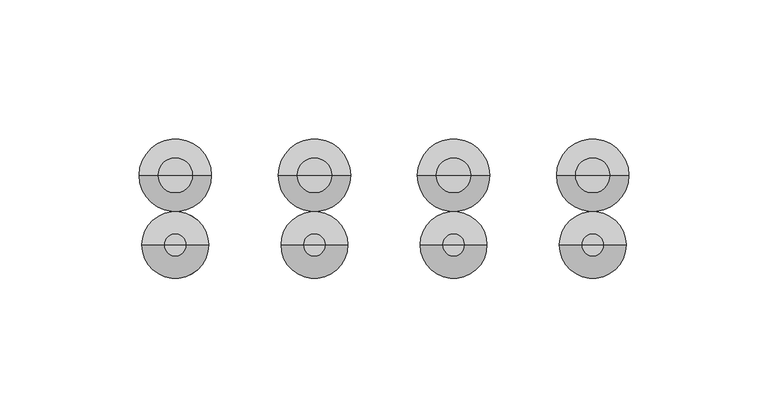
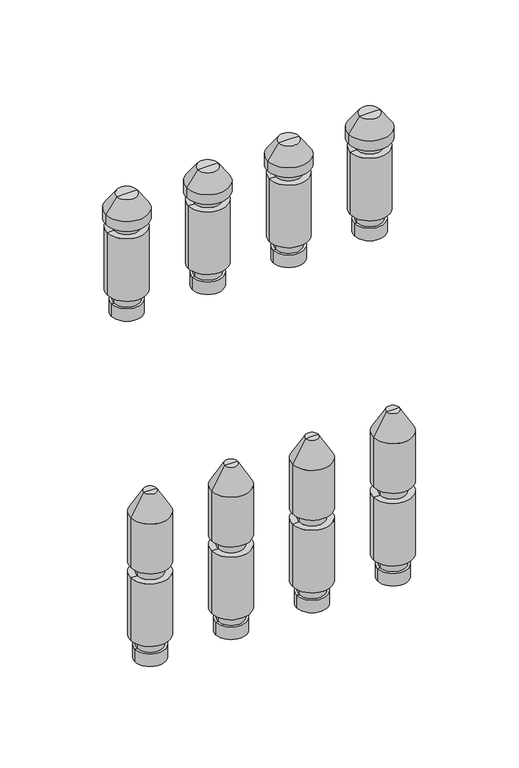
"""IFC4 building model written with IfcOpenShell, lengths in millimetres: valve geometry, PL CZ_Manifold_FT-VA : 11 circuits."""

from ifc_helpers import new_model, si_unit, frame, origin, place, context, project, spatial, polyline, circle_curve, source, transform, mapped, element, save
from ifc_brep_helpers import plane_surface, cylinder_surface, revolved_surface, advanced_brep


def valve_b9d05faa(model_context):
    return source(origin(), model_context, "Body", "AdvancedBrep", [
        advanced_brep(
        [(478.5, 0.0, -35.11267), (497.5, 0.0, -35.11267), (488.0, 0.0, -35.11267), (478.5, 0.0, -27.0369646), (497.5, 0.0, -27.0369646), (480.0, 0.0, -27.0369646), (496.0, 0.0, -27.0369646), (480.0, 0.0, -20.330253), (496.0, 0.0, -20.330253), (476.0, 0.0, -20.330253), (500.0, 0.0, -20.330253), (476.0, 0.0, 20.330253), (500.0, 0.0, 20.330253), (480.0, 0.0, 20.330253), (496.0, 0.0, 20.330253), (480.0, 0.0, 27.0474786), (496.0, 0.0, 27.0474786), (476.0, 0.0, 27.0474786), (500.0, 0.0, 27.0474786), (476.0, 0.0, 59.4084325), (500.0, 0.0, 59.4084325), (484.0, 0.0, 73.264839), (492.0, 0.0, 73.264839), (488.0, 0.0, 73.264839)],
        [
            (0, 1, circle_curve(frame((488.0, 0.0, -35.11267), z_axis=(0.0, 0.0, -1.0), x_axis=(1.0, 0.0, 0.0)), 9.5)),
            (1, 2),
            (2, 0),
            (1, 0, circle_curve(frame((488.0, 0.0, -35.11267), z_axis=(0.0, 0.0, -1.0), x_axis=(1.0, 0.0, 0.0)), 9.5)),
            (3, 4, circle_curve(frame((488.0, 0.0, -27.0369646), z_axis=(0.0, 0.0, -1.0), x_axis=(1.0, 0.0, 0.0)), 9.5)),
            (4, 1),
            (0, 3),
            (4, 3, circle_curve(frame((488.0, 0.0, -27.0369646), z_axis=(0.0, 0.0, -1.0), x_axis=(1.0, 0.0, 0.0)), 9.5)),
            (5, 6, circle_curve(frame((488.0, 0.0, -27.0369646), z_axis=(0.0, 0.0, -1.0), x_axis=(1.0, 0.0, 0.0)), 8.0)),
            (6, 4),
            (3, 5),
            (6, 5, circle_curve(frame((488.0, 0.0, -27.0369646), z_axis=(0.0, 0.0, -1.0), x_axis=(1.0, 0.0, 0.0)), 8.0)),
            (7, 8, circle_curve(frame((488.0, 0.0, -20.330253), z_axis=(0.0, 0.0, -1.0), x_axis=(1.0, 0.0, 0.0)), 8.0)),
            (8, 6),
            (5, 7),
            (8, 7, circle_curve(frame((488.0, 0.0, -20.330253), z_axis=(0.0, 0.0, -1.0), x_axis=(1.0, 0.0, 0.0)), 8.0)),
            (9, 10, circle_curve(frame((488.0, 0.0, -20.330253), z_axis=(0.0, 0.0, -1.0), x_axis=(1.0, 0.0, 0.0)), 12.0)),
            (10, 8),
            (7, 9),
            (10, 9, circle_curve(frame((488.0, 0.0, -20.330253), z_axis=(0.0, 0.0, -1.0), x_axis=(1.0, 0.0, 0.0)), 12.0)),
            (11, 12, circle_curve(frame((488.0, 0.0, 20.330253), z_axis=(0.0, 0.0, -1.0), x_axis=(1.0, 0.0, 0.0)), 12.0)),
            (12, 10),
            (9, 11),
            (12, 11, circle_curve(frame((488.0, 0.0, 20.330253), z_axis=(0.0, 0.0, -1.0), x_axis=(1.0, 0.0, 0.0)), 12.0)),
            (13, 14, circle_curve(frame((488.0, 0.0, 20.330253), z_axis=(0.0, 0.0, -1.0), x_axis=(1.0, 0.0, 0.0)), 8.0)),
            (14, 12),
            (11, 13),
            (14, 13, circle_curve(frame((488.0, 0.0, 20.330253), z_axis=(0.0, 0.0, -1.0), x_axis=(1.0, 0.0, 0.0)), 8.0)),
            (15, 16, circle_curve(frame((488.0, 0.0, 27.0474786), z_axis=(0.0, 0.0, -1.0), x_axis=(1.0, 0.0, 0.0)), 8.0)),
            (16, 14),
            (13, 15),
            (16, 15, circle_curve(frame((488.0, 0.0, 27.0474786), z_axis=(0.0, 0.0, -1.0), x_axis=(1.0, 0.0, 0.0)), 8.0)),
            (17, 18, circle_curve(frame((488.0, 0.0, 27.0474786), z_axis=(0.0, 0.0, -1.0), x_axis=(1.0, 0.0, 0.0)), 12.0)),
            (18, 16),
            (15, 17),
            (18, 17, circle_curve(frame((488.0, 0.0, 27.0474786), z_axis=(0.0, 0.0, -1.0), x_axis=(1.0, 0.0, 0.0)), 12.0)),
            (19, 20, circle_curve(frame((488.0, 0.0, 59.4084325), z_axis=(0.0, 0.0, -1.0), x_axis=(1.0, 0.0, 0.0)), 12.0)),
            (20, 18),
            (17, 19),
            (20, 19, circle_curve(frame((488.0, 0.0, 59.4084325), z_axis=(0.0, 0.0, -1.0), x_axis=(1.0, 0.0, 0.0)), 12.0)),
            (21, 22, circle_curve(frame((488.0, 0.0, 73.264839), z_axis=(0.0, 0.0, -1.0), x_axis=(1.0, 0.0, 0.0)), 4.0)),
            (22, 20),
            (19, 21),
            (22, 21, circle_curve(frame((488.0, 0.0, 73.264839), z_axis=(0.0, 0.0, -1.0), x_axis=(1.0, 0.0, 0.0)), 4.0)),
            (23, 22),
            (21, 23),
        ],
        [
            plane_surface(frame((488.0, 0.0, -35.11267), z_axis=(0.0, 0.0, -1.0), x_axis=(1.0, 0.0, 0.0))),
            cylinder_surface(frame((488.0, 0.0, 58.264839), z_axis=(0.0, 0.0, 1.0), x_axis=(1.0, 0.0, 0.0)), 9.5),
            plane_surface(frame((488.0, 0.0, -27.0369646), z_axis=(0.0, 0.0, 1.0), x_axis=(1.0, 0.0, 0.0))),
            cylinder_surface(frame((488.0, 0.0, 58.264839), z_axis=(0.0, 0.0, 1.0), x_axis=(1.0, 0.0, 0.0)), 8.0),
            plane_surface(frame((488.0, 0.0, -20.330253), z_axis=(0.0, 0.0, -1.0), x_axis=(1.0, 0.0, 0.0))),
            cylinder_surface(frame((488.0, 0.0, 58.264839), z_axis=(0.0, 0.0, 1.0), x_axis=(1.0, 0.0, 0.0)), 12.0),
            plane_surface(frame((488.0, 0.0, 20.330253), z_axis=(0.0, 0.0, 1.0), x_axis=(1.0, 0.0, 0.0))),
            plane_surface(frame((488.0, 0.0, 27.0474786), z_axis=(0.0, 0.0, -1.0), x_axis=(1.0, 0.0, 0.0))),
            revolved_surface(polyline([(500.0, 0.0, 59.4084325), (492.0, 0.0, 73.264839)]), (488.0, 0.0, 58.264839), (0.0, 0.0, 1.0)),
            plane_surface(frame((488.0, 0.0, 73.264839), z_axis=(0.0, 0.0, 1.0), x_axis=(1.0, 0.0, 0.0))),
        ],
        [
            (0, [[1, 2, 3]]),
            (0, [[4, -3, -2]]),
            (1, [[5, 6, -1, 7]]),
            (1, [[8, -7, -4, -6]]),
            (2, [[9, 10, -5, 11]]),
            (2, [[12, -11, -8, -10]]),
            (3, [[13, 14, -9, 15]]),
            (3, [[16, -15, -12, -14]]),
            (4, [[17, 18, -13, 19]]),
            (4, [[20, -19, -16, -18]]),
            (5, [[21, 22, -17, 23]]),
            (5, [[24, -23, -20, -22]]),
            (6, [[25, 26, -21, 27]]),
            (6, [[28, -27, -24, -26]]),
            (3, [[29, 30, -25, 31]]),
            (3, [[32, -31, -28, -30]]),
            (7, [[33, 34, -29, 35]]),
            (7, [[36, -35, -32, -34]]),
            (5, [[37, 38, -33, 39]]),
            (5, [[40, -39, -36, -38]]),
            (8, [[41, 42, -37, 43]]),
            (8, [[44, -43, -40, -42]]),
            (9, [[45, -41, 46]]),
            (9, [[-46, -44, -45]]),
        ],
    ),
        advanced_brep(
        [(478.5, 25.0, 174.88733), (497.5, 25.0, 174.88733), (488.0, 25.0, 174.88733), (478.5, 25.0, 182.9630354), (497.5, 25.0, 182.9630354), (480.0, 25.0, 182.9630354), (496.0, 25.0, 182.9630354), (480.0, 25.0, 189.669747), (496.0, 25.0, 189.669747), (476.0, 25.0, 189.669747), (500.0, 25.0, 189.669747), (476.0, 25.0, 230.330253), (500.0, 25.0, 230.330253), (480.0, 25.0, 230.330253), (496.0, 25.0, 230.330253), (480.0, 25.0, 236.0474786), (496.0, 25.0, 236.0474786), (475.0, 25.0, 236.0474786), (501.0, 25.0, 236.0474786), (475.0, 25.0, 242.337955), (501.0, 25.0, 242.337955), (481.6551779, 25.0, 251.842534), (494.3448221, 25.0, 251.842534), (488.0, 25.0, 251.842534)],
        [
            (0, 1, circle_curve(frame((488.0, 25.0, 174.88733), z_axis=(0.0, 0.0, -1.0), x_axis=(1.0, 0.0, 0.0)), 9.5)),
            (1, 2),
            (2, 0),
            (1, 0, circle_curve(frame((488.0, 25.0, 174.88733), z_axis=(0.0, 0.0, -1.0), x_axis=(1.0, 0.0, 0.0)), 9.5)),
            (3, 4, circle_curve(frame((488.0, 25.0, 182.9630354), z_axis=(0.0, 0.0, -1.0), x_axis=(1.0, 0.0, 0.0)), 9.5)),
            (4, 1),
            (0, 3),
            (4, 3, circle_curve(frame((488.0, 25.0, 182.9630354), z_axis=(0.0, 0.0, -1.0), x_axis=(1.0, 0.0, 0.0)), 9.5)),
            (5, 6, circle_curve(frame((488.0, 25.0, 182.9630354), z_axis=(0.0, 0.0, -1.0), x_axis=(1.0, 0.0, 0.0)), 8.0)),
            (6, 4),
            (3, 5),
            (6, 5, circle_curve(frame((488.0, 25.0, 182.9630354), z_axis=(0.0, 0.0, -1.0), x_axis=(1.0, 0.0, 0.0)), 8.0)),
            (7, 8, circle_curve(frame((488.0, 25.0, 189.669747), z_axis=(0.0, 0.0, -1.0), x_axis=(1.0, 0.0, 0.0)), 8.0)),
            (8, 6),
            (5, 7),
            (8, 7, circle_curve(frame((488.0, 25.0, 189.669747), z_axis=(0.0, 0.0, -1.0), x_axis=(1.0, 0.0, 0.0)), 8.0)),
            (9, 10, circle_curve(frame((488.0, 25.0, 189.669747), z_axis=(0.0, 0.0, -1.0), x_axis=(1.0, 0.0, 0.0)), 12.0)),
            (10, 8),
            (7, 9),
            (10, 9, circle_curve(frame((488.0, 25.0, 189.669747), z_axis=(0.0, 0.0, -1.0), x_axis=(1.0, 0.0, 0.0)), 12.0)),
            (11, 12, circle_curve(frame((488.0, 25.0, 230.330253), z_axis=(0.0, 0.0, -1.0), x_axis=(1.0, 0.0, 0.0)), 12.0)),
            (12, 10),
            (9, 11),
            (12, 11, circle_curve(frame((488.0, 25.0, 230.330253), z_axis=(0.0, 0.0, -1.0), x_axis=(1.0, 0.0, 0.0)), 12.0)),
            (13, 14, circle_curve(frame((488.0, 25.0, 230.330253), z_axis=(0.0, 0.0, -1.0), x_axis=(1.0, 0.0, 0.0)), 8.0)),
            (14, 12),
            (11, 13),
            (14, 13, circle_curve(frame((488.0, 25.0, 230.330253), z_axis=(0.0, 0.0, -1.0), x_axis=(1.0, 0.0, 0.0)), 8.0)),
            (15, 16, circle_curve(frame((488.0, 25.0, 236.0474786), z_axis=(0.0, 0.0, -1.0), x_axis=(1.0, 0.0, 0.0)), 8.0)),
            (16, 14),
            (13, 15),
            (16, 15, circle_curve(frame((488.0, 25.0, 236.0474786), z_axis=(0.0, 0.0, -1.0), x_axis=(1.0, 0.0, 0.0)), 8.0)),
            (17, 18, circle_curve(frame((488.0, 25.0, 236.0474786), z_axis=(0.0, 0.0, -1.0), x_axis=(1.0, 0.0, 0.0)), 13.0)),
            (18, 16),
            (15, 17),
            (18, 17, circle_curve(frame((488.0, 25.0, 236.0474786), z_axis=(0.0, 0.0, -1.0), x_axis=(1.0, 0.0, 0.0)), 13.0)),
            (19, 20, circle_curve(frame((488.0, 25.0, 242.337955), z_axis=(0.0, 0.0, -1.0), x_axis=(1.0, 0.0, 0.0)), 13.0)),
            (20, 18),
            (17, 19),
            (20, 19, circle_curve(frame((488.0, 25.0, 242.337955), z_axis=(0.0, 0.0, -1.0), x_axis=(1.0, 0.0, 0.0)), 13.0)),
            (21, 22, circle_curve(frame((488.0, 25.0, 251.842534), z_axis=(0.0, 0.0, -1.0), x_axis=(1.0, 0.0, 0.0)), 6.3448221)),
            (22, 20),
            (19, 21),
            (22, 21, circle_curve(frame((488.0, 25.0, 251.842534), z_axis=(0.0, 0.0, -1.0), x_axis=(1.0, 0.0, 0.0)), 6.3448221)),
            (23, 22),
            (21, 23),
        ],
        [
            plane_surface(frame((488.0, 25.0, 174.88733), z_axis=(0.0, 0.0, -1.0), x_axis=(1.0, 0.0, 0.0))),
            cylinder_surface(frame((488.0, 25.0, 247.7026565), z_axis=(0.0, 0.0, 1.0), x_axis=(1.0, 0.0, 0.0)), 9.5),
            plane_surface(frame((488.0, 25.0, 182.9630354), z_axis=(0.0, 0.0, 1.0), x_axis=(1.0, 0.0, 0.0))),
            cylinder_surface(frame((488.0, 25.0, 247.7026565), z_axis=(0.0, 0.0, 1.0), x_axis=(1.0, 0.0, 0.0)), 8.0),
            plane_surface(frame((488.0, 25.0, 189.669747), z_axis=(0.0, 0.0, -1.0), x_axis=(1.0, 0.0, 0.0))),
            cylinder_surface(frame((488.0, 25.0, 247.7026565), z_axis=(0.0, 0.0, 1.0), x_axis=(1.0, 0.0, 0.0)), 12.0),
            plane_surface(frame((488.0, 25.0, 230.330253), z_axis=(0.0, 0.0, 1.0), x_axis=(1.0, 0.0, 0.0))),
            plane_surface(frame((488.0, 25.0, 236.0474786), z_axis=(0.0, 0.0, -1.0), x_axis=(1.0, 0.0, 0.0))),
            cylinder_surface(frame((488.0, 25.0, 247.7026565), z_axis=(0.0, 0.0, 1.0), x_axis=(1.0, 0.0, 0.0)), 13.0),
            revolved_surface(polyline([(501.0, 25.0, 242.337955), (494.3448221, 25.0, 251.842534)]), (488.0, 25.0, 247.7026565), (0.0, 0.0, 1.0)),
            plane_surface(frame((488.0, 25.0, 251.842534), z_axis=(0.0, 0.0, 1.0), x_axis=(1.0, 0.0, 0.0))),
        ],
        [
            (0, [[1, 2, 3]]),
            (0, [[4, -3, -2]]),
            (1, [[5, 6, -1, 7]]),
            (1, [[8, -7, -4, -6]]),
            (2, [[9, 10, -5, 11]]),
            (2, [[12, -11, -8, -10]]),
            (3, [[13, 14, -9, 15]]),
            (3, [[16, -15, -12, -14]]),
            (4, [[17, 18, -13, 19]]),
            (4, [[20, -19, -16, -18]]),
            (5, [[21, 22, -17, 23]]),
            (5, [[24, -23, -20, -22]]),
            (6, [[25, 26, -21, 27]]),
            (6, [[28, -27, -24, -26]]),
            (3, [[29, 30, -25, 31]]),
            (3, [[32, -31, -28, -30]]),
            (7, [[33, 34, -29, 35]]),
            (7, [[36, -35, -32, -34]]),
            (8, [[37, 38, -33, 39]]),
            (8, [[40, -39, -36, -38]]),
            (9, [[41, 42, -37, 43]]),
            (9, [[44, -43, -40, -42]]),
            (10, [[45, -41, 46]]),
            (10, [[-46, -44, -45]]),
        ],
    ),
        advanced_brep(
        [(428.5, 0.0, -35.11267), (447.5, 0.0, -35.11267), (438.0, 0.0, -35.11267), (428.5, 0.0, -27.0369646), (447.5, 0.0, -27.0369646), (430.0, 0.0, -27.0369646), (446.0, 0.0, -27.0369646), (430.0, 0.0, -20.330253), (446.0, 0.0, -20.330253), (426.0, 0.0, -20.330253), (450.0, 0.0, -20.330253), (426.0, 0.0, 20.330253), (450.0, 0.0, 20.330253), (430.0, 0.0, 20.330253), (446.0, 0.0, 20.330253), (430.0, 0.0, 27.0474786), (446.0, 0.0, 27.0474786), (426.0, 0.0, 27.0474786), (450.0, 0.0, 27.0474786), (426.0, 0.0, 59.4084325), (450.0, 0.0, 59.4084325), (434.0, 0.0, 73.264839), (442.0, 0.0, 73.264839), (438.0, 0.0, 73.264839)],
        [
            (0, 1, circle_curve(frame((438.0, 0.0, -35.11267), z_axis=(0.0, 0.0, -1.0), x_axis=(1.0, 0.0, 0.0)), 9.5)),
            (1, 2),
            (2, 0),
            (1, 0, circle_curve(frame((438.0, 0.0, -35.11267), z_axis=(0.0, 0.0, -1.0), x_axis=(1.0, 0.0, 0.0)), 9.5)),
            (3, 4, circle_curve(frame((438.0, 0.0, -27.0369646), z_axis=(0.0, 0.0, -1.0), x_axis=(1.0, 0.0, 0.0)), 9.5)),
            (4, 1),
            (0, 3),
            (4, 3, circle_curve(frame((438.0, 0.0, -27.0369646), z_axis=(0.0, 0.0, -1.0), x_axis=(1.0, 0.0, 0.0)), 9.5)),
            (5, 6, circle_curve(frame((438.0, 0.0, -27.0369646), z_axis=(0.0, 0.0, -1.0), x_axis=(1.0, 0.0, 0.0)), 8.0)),
            (6, 4),
            (3, 5),
            (6, 5, circle_curve(frame((438.0, 0.0, -27.0369646), z_axis=(0.0, 0.0, -1.0), x_axis=(1.0, 0.0, 0.0)), 8.0)),
            (7, 8, circle_curve(frame((438.0, 0.0, -20.330253), z_axis=(0.0, 0.0, -1.0), x_axis=(1.0, 0.0, 0.0)), 8.0)),
            (8, 6),
            (5, 7),
            (8, 7, circle_curve(frame((438.0, 0.0, -20.330253), z_axis=(0.0, 0.0, -1.0), x_axis=(1.0, 0.0, 0.0)), 8.0)),
            (9, 10, circle_curve(frame((438.0, 0.0, -20.330253), z_axis=(0.0, 0.0, -1.0), x_axis=(1.0, 0.0, 0.0)), 12.0)),
            (10, 8),
            (7, 9),
            (10, 9, circle_curve(frame((438.0, 0.0, -20.330253), z_axis=(0.0, 0.0, -1.0), x_axis=(1.0, 0.0, 0.0)), 12.0)),
            (11, 12, circle_curve(frame((438.0, 0.0, 20.330253), z_axis=(0.0, 0.0, -1.0), x_axis=(1.0, 0.0, 0.0)), 12.0)),
            (12, 10),
            (9, 11),
            (12, 11, circle_curve(frame((438.0, 0.0, 20.330253), z_axis=(0.0, 0.0, -1.0), x_axis=(1.0, 0.0, 0.0)), 12.0)),
            (13, 14, circle_curve(frame((438.0, 0.0, 20.330253), z_axis=(0.0, 0.0, -1.0), x_axis=(1.0, 0.0, 0.0)), 8.0)),
            (14, 12),
            (11, 13),
            (14, 13, circle_curve(frame((438.0, 0.0, 20.330253), z_axis=(0.0, 0.0, -1.0), x_axis=(1.0, 0.0, 0.0)), 8.0)),
            (15, 16, circle_curve(frame((438.0, 0.0, 27.0474786), z_axis=(0.0, 0.0, -1.0), x_axis=(1.0, 0.0, 0.0)), 8.0)),
            (16, 14),
            (13, 15),
            (16, 15, circle_curve(frame((438.0, 0.0, 27.0474786), z_axis=(0.0, 0.0, -1.0), x_axis=(1.0, 0.0, 0.0)), 8.0)),
            (17, 18, circle_curve(frame((438.0, 0.0, 27.0474786), z_axis=(0.0, 0.0, -1.0), x_axis=(1.0, 0.0, 0.0)), 12.0)),
            (18, 16),
            (15, 17),
            (18, 17, circle_curve(frame((438.0, 0.0, 27.0474786), z_axis=(0.0, 0.0, -1.0), x_axis=(1.0, 0.0, 0.0)), 12.0)),
            (19, 20, circle_curve(frame((438.0, 0.0, 59.4084325), z_axis=(0.0, 0.0, -1.0), x_axis=(1.0, 0.0, 0.0)), 12.0)),
            (20, 18),
            (17, 19),
            (20, 19, circle_curve(frame((438.0, 0.0, 59.4084325), z_axis=(0.0, 0.0, -1.0), x_axis=(1.0, 0.0, 0.0)), 12.0)),
            (21, 22, circle_curve(frame((438.0, 0.0, 73.264839), z_axis=(0.0, 0.0, -1.0), x_axis=(1.0, 0.0, 0.0)), 4.0)),
            (22, 20),
            (19, 21),
            (22, 21, circle_curve(frame((438.0, 0.0, 73.264839), z_axis=(0.0, 0.0, -1.0), x_axis=(1.0, 0.0, 0.0)), 4.0)),
            (23, 22),
            (21, 23),
        ],
        [
            plane_surface(frame((438.0, 0.0, -35.11267), z_axis=(0.0, 0.0, -1.0), x_axis=(1.0, 0.0, 0.0))),
            cylinder_surface(frame((438.0, 0.0, 58.264839), z_axis=(0.0, 0.0, 1.0), x_axis=(1.0, 0.0, 0.0)), 9.5),
            plane_surface(frame((438.0, 0.0, -27.0369646), z_axis=(0.0, 0.0, 1.0), x_axis=(1.0, 0.0, 0.0))),
            cylinder_surface(frame((438.0, 0.0, 58.264839), z_axis=(0.0, 0.0, 1.0), x_axis=(1.0, 0.0, 0.0)), 8.0),
            plane_surface(frame((438.0, 0.0, -20.330253), z_axis=(0.0, 0.0, -1.0), x_axis=(1.0, 0.0, 0.0))),
            cylinder_surface(frame((438.0, 0.0, 58.264839), z_axis=(0.0, 0.0, 1.0), x_axis=(1.0, 0.0, 0.0)), 12.0),
            plane_surface(frame((438.0, 0.0, 20.330253), z_axis=(0.0, 0.0, 1.0), x_axis=(1.0, 0.0, 0.0))),
            plane_surface(frame((438.0, 0.0, 27.0474786), z_axis=(0.0, 0.0, -1.0), x_axis=(1.0, 0.0, 0.0))),
            revolved_surface(polyline([(450.0, 0.0, 59.4084325), (442.0, 0.0, 73.264839)]), (438.0, 0.0, 58.264839), (0.0, 0.0, 1.0)),
            plane_surface(frame((438.0, 0.0, 73.264839), z_axis=(0.0, 0.0, 1.0), x_axis=(1.0, 0.0, 0.0))),
        ],
        [
            (0, [[1, 2, 3]]),
            (0, [[4, -3, -2]]),
            (1, [[5, 6, -1, 7]]),
            (1, [[8, -7, -4, -6]]),
            (2, [[9, 10, -5, 11]]),
            (2, [[12, -11, -8, -10]]),
            (3, [[13, 14, -9, 15]]),
            (3, [[16, -15, -12, -14]]),
            (4, [[17, 18, -13, 19]]),
            (4, [[20, -19, -16, -18]]),
            (5, [[21, 22, -17, 23]]),
            (5, [[24, -23, -20, -22]]),
            (6, [[25, 26, -21, 27]]),
            (6, [[28, -27, -24, -26]]),
            (3, [[29, 30, -25, 31]]),
            (3, [[32, -31, -28, -30]]),
            (7, [[33, 34, -29, 35]]),
            (7, [[36, -35, -32, -34]]),
            (5, [[37, 38, -33, 39]]),
            (5, [[40, -39, -36, -38]]),
            (8, [[41, 42, -37, 43]]),
            (8, [[44, -43, -40, -42]]),
            (9, [[45, -41, 46]]),
            (9, [[-46, -44, -45]]),
        ],
    ),
        advanced_brep(
        [(378.5, 0.0, -35.11267), (397.5, 0.0, -35.11267), (388.0, 0.0, -35.11267), (378.5, 0.0, -27.0369646), (397.5, 0.0, -27.0369646), (380.0, 0.0, -27.0369646), (396.0, 0.0, -27.0369646), (380.0, 0.0, -20.330253), (396.0, 0.0, -20.330253), (376.0, 0.0, -20.330253), (400.0, 0.0, -20.330253), (376.0, 0.0, 20.330253), (400.0, 0.0, 20.330253), (380.0, 0.0, 20.330253), (396.0, 0.0, 20.330253), (380.0, 0.0, 27.0474786), (396.0, 0.0, 27.0474786), (376.0, 0.0, 27.0474786), (400.0, 0.0, 27.0474786), (376.0, 0.0, 59.4084325), (400.0, 0.0, 59.4084325), (384.0, 0.0, 73.264839), (392.0, 0.0, 73.264839), (388.0, 0.0, 73.264839)],
        [
            (0, 1, circle_curve(frame((388.0, 0.0, -35.11267), z_axis=(0.0, 0.0, -1.0), x_axis=(1.0, 0.0, 0.0)), 9.5)),
            (1, 2),
            (2, 0),
            (1, 0, circle_curve(frame((388.0, 0.0, -35.11267), z_axis=(0.0, 0.0, -1.0), x_axis=(1.0, 0.0, 0.0)), 9.5)),
            (3, 4, circle_curve(frame((388.0, 0.0, -27.0369646), z_axis=(0.0, 0.0, -1.0), x_axis=(1.0, 0.0, 0.0)), 9.5)),
            (4, 1),
            (0, 3),
            (4, 3, circle_curve(frame((388.0, 0.0, -27.0369646), z_axis=(0.0, 0.0, -1.0), x_axis=(1.0, 0.0, 0.0)), 9.5)),
            (5, 6, circle_curve(frame((388.0, 0.0, -27.0369646), z_axis=(0.0, 0.0, -1.0), x_axis=(1.0, 0.0, 0.0)), 8.0)),
            (6, 4),
            (3, 5),
            (6, 5, circle_curve(frame((388.0, 0.0, -27.0369646), z_axis=(0.0, 0.0, -1.0), x_axis=(1.0, 0.0, 0.0)), 8.0)),
            (7, 8, circle_curve(frame((388.0, 0.0, -20.330253), z_axis=(0.0, 0.0, -1.0), x_axis=(1.0, 0.0, 0.0)), 8.0)),
            (8, 6),
            (5, 7),
            (8, 7, circle_curve(frame((388.0, 0.0, -20.330253), z_axis=(0.0, 0.0, -1.0), x_axis=(1.0, 0.0, 0.0)), 8.0)),
            (9, 10, circle_curve(frame((388.0, 0.0, -20.330253), z_axis=(0.0, 0.0, -1.0), x_axis=(1.0, 0.0, 0.0)), 12.0)),
            (10, 8),
            (7, 9),
            (10, 9, circle_curve(frame((388.0, 0.0, -20.330253), z_axis=(0.0, 0.0, -1.0), x_axis=(1.0, 0.0, 0.0)), 12.0)),
            (11, 12, circle_curve(frame((388.0, 0.0, 20.330253), z_axis=(0.0, 0.0, -1.0), x_axis=(1.0, 0.0, 0.0)), 12.0)),
            (12, 10),
            (9, 11),
            (12, 11, circle_curve(frame((388.0, 0.0, 20.330253), z_axis=(0.0, 0.0, -1.0), x_axis=(1.0, 0.0, 0.0)), 12.0)),
            (13, 14, circle_curve(frame((388.0, 0.0, 20.330253), z_axis=(0.0, 0.0, -1.0), x_axis=(1.0, 0.0, 0.0)), 8.0)),
            (14, 12),
            (11, 13),
            (14, 13, circle_curve(frame((388.0, 0.0, 20.330253), z_axis=(0.0, 0.0, -1.0), x_axis=(1.0, 0.0, 0.0)), 8.0)),
            (15, 16, circle_curve(frame((388.0, 0.0, 27.0474786), z_axis=(0.0, 0.0, -1.0), x_axis=(1.0, 0.0, 0.0)), 8.0)),
            (16, 14),
            (13, 15),
            (16, 15, circle_curve(frame((388.0, 0.0, 27.0474786), z_axis=(0.0, 0.0, -1.0), x_axis=(1.0, 0.0, 0.0)), 8.0)),
            (17, 18, circle_curve(frame((388.0, 0.0, 27.0474786), z_axis=(0.0, 0.0, -1.0), x_axis=(1.0, 0.0, 0.0)), 12.0)),
            (18, 16),
            (15, 17),
            (18, 17, circle_curve(frame((388.0, 0.0, 27.0474786), z_axis=(0.0, 0.0, -1.0), x_axis=(1.0, 0.0, 0.0)), 12.0)),
            (19, 20, circle_curve(frame((388.0, 0.0, 59.4084325), z_axis=(0.0, 0.0, -1.0), x_axis=(1.0, 0.0, 0.0)), 12.0)),
            (20, 18),
            (17, 19),
            (20, 19, circle_curve(frame((388.0, 0.0, 59.4084325), z_axis=(0.0, 0.0, -1.0), x_axis=(1.0, 0.0, 0.0)), 12.0)),
            (21, 22, circle_curve(frame((388.0, 0.0, 73.264839), z_axis=(0.0, 0.0, -1.0), x_axis=(1.0, 0.0, 0.0)), 4.0)),
            (22, 20),
            (19, 21),
            (22, 21, circle_curve(frame((388.0, 0.0, 73.264839), z_axis=(0.0, 0.0, -1.0), x_axis=(1.0, 0.0, 0.0)), 4.0)),
            (23, 22),
            (21, 23),
        ],
        [
            plane_surface(frame((388.0, 0.0, -35.11267), z_axis=(0.0, 0.0, -1.0), x_axis=(1.0, 0.0, 0.0))),
            cylinder_surface(frame((388.0, 0.0, 58.264839), z_axis=(0.0, 0.0, 1.0), x_axis=(1.0, 0.0, 0.0)), 9.5),
            plane_surface(frame((388.0, 0.0, -27.0369646), z_axis=(0.0, 0.0, 1.0), x_axis=(1.0, 0.0, 0.0))),
            cylinder_surface(frame((388.0, 0.0, 58.264839), z_axis=(0.0, 0.0, 1.0), x_axis=(1.0, 0.0, 0.0)), 8.0),
            plane_surface(frame((388.0, 0.0, -20.330253), z_axis=(0.0, 0.0, -1.0), x_axis=(1.0, 0.0, 0.0))),
            cylinder_surface(frame((388.0, 0.0, 58.264839), z_axis=(0.0, 0.0, 1.0), x_axis=(1.0, 0.0, 0.0)), 12.0),
            plane_surface(frame((388.0, 0.0, 20.330253), z_axis=(0.0, 0.0, 1.0), x_axis=(1.0, 0.0, 0.0))),
            plane_surface(frame((388.0, 0.0, 27.0474786), z_axis=(0.0, 0.0, -1.0), x_axis=(1.0, 0.0, 0.0))),
            revolved_surface(polyline([(400.0, 0.0, 59.4084325), (392.0, 0.0, 73.264839)]), (388.0, 0.0, 58.264839), (0.0, 0.0, 1.0)),
            plane_surface(frame((388.0, 0.0, 73.264839), z_axis=(0.0, 0.0, 1.0), x_axis=(1.0, 0.0, 0.0))),
        ],
        [
            (0, [[1, 2, 3]]),
            (0, [[4, -3, -2]]),
            (1, [[5, 6, -1, 7]]),
            (1, [[8, -7, -4, -6]]),
            (2, [[9, 10, -5, 11]]),
            (2, [[12, -11, -8, -10]]),
            (3, [[13, 14, -9, 15]]),
            (3, [[16, -15, -12, -14]]),
            (4, [[17, 18, -13, 19]]),
            (4, [[20, -19, -16, -18]]),
            (5, [[21, 22, -17, 23]]),
            (5, [[24, -23, -20, -22]]),
            (6, [[25, 26, -21, 27]]),
            (6, [[28, -27, -24, -26]]),
            (3, [[29, 30, -25, 31]]),
            (3, [[32, -31, -28, -30]]),
            (7, [[33, 34, -29, 35]]),
            (7, [[36, -35, -32, -34]]),
            (5, [[37, 38, -33, 39]]),
            (5, [[40, -39, -36, -38]]),
            (8, [[41, 42, -37, 43]]),
            (8, [[44, -43, -40, -42]]),
            (9, [[45, -41, 46]]),
            (9, [[-46, -44, -45]]),
        ],
    ),
        advanced_brep(
        [(428.5, 25.0, 174.88733), (447.5, 25.0, 174.88733), (438.0, 25.0, 174.88733), (428.5, 25.0, 182.9630354), (447.5, 25.0, 182.9630354), (430.0, 25.0, 182.9630354), (446.0, 25.0, 182.9630354), (430.0, 25.0, 189.669747), (446.0, 25.0, 189.669747), (426.0, 25.0, 189.669747), (450.0, 25.0, 189.669747), (426.0, 25.0, 230.330253), (450.0, 25.0, 230.330253), (430.0, 25.0, 230.330253), (446.0, 25.0, 230.330253), (430.0, 25.0, 236.0474786), (446.0, 25.0, 236.0474786), (425.0, 25.0, 236.0474786), (451.0, 25.0, 236.0474786), (425.0, 25.0, 242.337955), (451.0, 25.0, 242.337955), (431.6551779, 25.0, 251.842534), (444.3448221, 25.0, 251.842534), (438.0, 25.0, 251.842534)],
        [
            (0, 1, circle_curve(frame((438.0, 25.0, 174.88733), z_axis=(0.0, 0.0, -1.0), x_axis=(1.0, 0.0, 0.0)), 9.5)),
            (1, 2),
            (2, 0),
            (1, 0, circle_curve(frame((438.0, 25.0, 174.88733), z_axis=(0.0, 0.0, -1.0), x_axis=(1.0, 0.0, 0.0)), 9.5)),
            (3, 4, circle_curve(frame((438.0, 25.0, 182.9630354), z_axis=(0.0, 0.0, -1.0), x_axis=(1.0, 0.0, 0.0)), 9.5)),
            (4, 1),
            (0, 3),
            (4, 3, circle_curve(frame((438.0, 25.0, 182.9630354), z_axis=(0.0, 0.0, -1.0), x_axis=(1.0, 0.0, 0.0)), 9.5)),
            (5, 6, circle_curve(frame((438.0, 25.0, 182.9630354), z_axis=(0.0, 0.0, -1.0), x_axis=(1.0, 0.0, 0.0)), 8.0)),
            (6, 4),
            (3, 5),
            (6, 5, circle_curve(frame((438.0, 25.0, 182.9630354), z_axis=(0.0, 0.0, -1.0), x_axis=(1.0, 0.0, 0.0)), 8.0)),
            (7, 8, circle_curve(frame((438.0, 25.0, 189.669747), z_axis=(0.0, 0.0, -1.0), x_axis=(1.0, 0.0, 0.0)), 8.0)),
            (8, 6),
            (5, 7),
            (8, 7, circle_curve(frame((438.0, 25.0, 189.669747), z_axis=(0.0, 0.0, -1.0), x_axis=(1.0, 0.0, 0.0)), 8.0)),
            (9, 10, circle_curve(frame((438.0, 25.0, 189.669747), z_axis=(0.0, 0.0, -1.0), x_axis=(1.0, 0.0, 0.0)), 12.0)),
            (10, 8),
            (7, 9),
            (10, 9, circle_curve(frame((438.0, 25.0, 189.669747), z_axis=(0.0, 0.0, -1.0), x_axis=(1.0, 0.0, 0.0)), 12.0)),
            (11, 12, circle_curve(frame((438.0, 25.0, 230.330253), z_axis=(0.0, 0.0, -1.0), x_axis=(1.0, 0.0, 0.0)), 12.0)),
            (12, 10),
            (9, 11),
            (12, 11, circle_curve(frame((438.0, 25.0, 230.330253), z_axis=(0.0, 0.0, -1.0), x_axis=(1.0, 0.0, 0.0)), 12.0)),
            (13, 14, circle_curve(frame((438.0, 25.0, 230.330253), z_axis=(0.0, 0.0, -1.0), x_axis=(1.0, 0.0, 0.0)), 8.0)),
            (14, 12),
            (11, 13),
            (14, 13, circle_curve(frame((438.0, 25.0, 230.330253), z_axis=(0.0, 0.0, -1.0), x_axis=(1.0, 0.0, 0.0)), 8.0)),
            (15, 16, circle_curve(frame((438.0, 25.0, 236.0474786), z_axis=(0.0, 0.0, -1.0), x_axis=(1.0, 0.0, 0.0)), 8.0)),
            (16, 14),
            (13, 15),
            (16, 15, circle_curve(frame((438.0, 25.0, 236.0474786), z_axis=(0.0, 0.0, -1.0), x_axis=(1.0, 0.0, 0.0)), 8.0)),
            (17, 18, circle_curve(frame((438.0, 25.0, 236.0474786), z_axis=(0.0, 0.0, -1.0), x_axis=(1.0, 0.0, 0.0)), 13.0)),
            (18, 16),
            (15, 17),
            (18, 17, circle_curve(frame((438.0, 25.0, 236.0474786), z_axis=(0.0, 0.0, -1.0), x_axis=(1.0, 0.0, 0.0)), 13.0)),
            (19, 20, circle_curve(frame((438.0, 25.0, 242.337955), z_axis=(0.0, 0.0, -1.0), x_axis=(1.0, 0.0, 0.0)), 13.0)),
            (20, 18),
            (17, 19),
            (20, 19, circle_curve(frame((438.0, 25.0, 242.337955), z_axis=(0.0, 0.0, -1.0), x_axis=(1.0, 0.0, 0.0)), 13.0)),
            (21, 22, circle_curve(frame((438.0, 25.0, 251.842534), z_axis=(0.0, 0.0, -1.0), x_axis=(1.0, 0.0, 0.0)), 6.3448221)),
            (22, 20),
            (19, 21),
            (22, 21, circle_curve(frame((438.0, 25.0, 251.842534), z_axis=(0.0, 0.0, -1.0), x_axis=(1.0, 0.0, 0.0)), 6.3448221)),
            (23, 22),
            (21, 23),
        ],
        [
            plane_surface(frame((438.0, 25.0, 174.88733), z_axis=(0.0, 0.0, -1.0), x_axis=(1.0, 0.0, 0.0))),
            cylinder_surface(frame((438.0, 25.0, 247.7026565), z_axis=(0.0, 0.0, 1.0), x_axis=(1.0, 0.0, 0.0)), 9.5),
            plane_surface(frame((438.0, 25.0, 182.9630354), z_axis=(0.0, 0.0, 1.0), x_axis=(1.0, 0.0, 0.0))),
            cylinder_surface(frame((438.0, 25.0, 247.7026565), z_axis=(0.0, 0.0, 1.0), x_axis=(1.0, 0.0, 0.0)), 8.0),
            plane_surface(frame((438.0, 25.0, 189.669747), z_axis=(0.0, 0.0, -1.0), x_axis=(1.0, 0.0, 0.0))),
            cylinder_surface(frame((438.0, 25.0, 247.7026565), z_axis=(0.0, 0.0, 1.0), x_axis=(1.0, 0.0, 0.0)), 12.0),
            plane_surface(frame((438.0, 25.0, 230.330253), z_axis=(0.0, 0.0, 1.0), x_axis=(1.0, 0.0, 0.0))),
            plane_surface(frame((438.0, 25.0, 236.0474786), z_axis=(0.0, 0.0, -1.0), x_axis=(1.0, 0.0, 0.0))),
            cylinder_surface(frame((438.0, 25.0, 247.7026565), z_axis=(0.0, 0.0, 1.0), x_axis=(1.0, 0.0, 0.0)), 13.0),
            revolved_surface(polyline([(451.0, 25.0, 242.337955), (444.3448221, 25.0, 251.842534)]), (438.0, 25.0, 247.7026565), (0.0, 0.0, 1.0)),
            plane_surface(frame((438.0, 25.0, 251.842534), z_axis=(0.0, 0.0, 1.0), x_axis=(1.0, 0.0, 0.0))),
        ],
        [
            (0, [[1, 2, 3]]),
            (0, [[4, -3, -2]]),
            (1, [[5, 6, -1, 7]]),
            (1, [[8, -7, -4, -6]]),
            (2, [[9, 10, -5, 11]]),
            (2, [[12, -11, -8, -10]]),
            (3, [[13, 14, -9, 15]]),
            (3, [[16, -15, -12, -14]]),
            (4, [[17, 18, -13, 19]]),
            (4, [[20, -19, -16, -18]]),
            (5, [[21, 22, -17, 23]]),
            (5, [[24, -23, -20, -22]]),
            (6, [[25, 26, -21, 27]]),
            (6, [[28, -27, -24, -26]]),
            (3, [[29, 30, -25, 31]]),
            (3, [[32, -31, -28, -30]]),
            (7, [[33, 34, -29, 35]]),
            (7, [[36, -35, -32, -34]]),
            (8, [[37, 38, -33, 39]]),
            (8, [[40, -39, -36, -38]]),
            (9, [[41, 42, -37, 43]]),
            (9, [[44, -43, -40, -42]]),
            (10, [[45, -41, 46]]),
            (10, [[-46, -44, -45]]),
        ],
    ),
        advanced_brep(
        [(378.5, 25.0, 174.88733), (397.5, 25.0, 174.88733), (388.0, 25.0, 174.88733), (378.5, 25.0, 182.9630354), (397.5, 25.0, 182.9630354), (380.0, 25.0, 182.9630354), (396.0, 25.0, 182.9630354), (380.0, 25.0, 189.669747), (396.0, 25.0, 189.669747), (376.0, 25.0, 189.669747), (400.0, 25.0, 189.669747), (376.0, 25.0, 230.330253), (400.0, 25.0, 230.330253), (380.0, 25.0, 230.330253), (396.0, 25.0, 230.330253), (380.0, 25.0, 236.0474786), (396.0, 25.0, 236.0474786), (375.0, 25.0, 236.0474786), (401.0, 25.0, 236.0474786), (375.0, 25.0, 242.337955), (401.0, 25.0, 242.337955), (381.6551779, 25.0, 251.842534), (394.3448221, 25.0, 251.842534), (388.0, 25.0, 251.842534)],
        [
            (0, 1, circle_curve(frame((388.0, 25.0, 174.88733), z_axis=(0.0, 0.0, -1.0), x_axis=(1.0, 0.0, 0.0)), 9.5)),
            (1, 2),
            (2, 0),
            (1, 0, circle_curve(frame((388.0, 25.0, 174.88733), z_axis=(0.0, 0.0, -1.0), x_axis=(1.0, 0.0, 0.0)), 9.5)),
            (3, 4, circle_curve(frame((388.0, 25.0, 182.9630354), z_axis=(0.0, 0.0, -1.0), x_axis=(1.0, 0.0, 0.0)), 9.5)),
            (4, 1),
            (0, 3),
            (4, 3, circle_curve(frame((388.0, 25.0, 182.9630354), z_axis=(0.0, 0.0, -1.0), x_axis=(1.0, 0.0, 0.0)), 9.5)),
            (5, 6, circle_curve(frame((388.0, 25.0, 182.9630354), z_axis=(0.0, 0.0, -1.0), x_axis=(1.0, 0.0, 0.0)), 8.0)),
            (6, 4),
            (3, 5),
            (6, 5, circle_curve(frame((388.0, 25.0, 182.9630354), z_axis=(0.0, 0.0, -1.0), x_axis=(1.0, 0.0, 0.0)), 8.0)),
            (7, 8, circle_curve(frame((388.0, 25.0, 189.669747), z_axis=(0.0, 0.0, -1.0), x_axis=(1.0, 0.0, 0.0)), 8.0)),
            (8, 6),
            (5, 7),
            (8, 7, circle_curve(frame((388.0, 25.0, 189.669747), z_axis=(0.0, 0.0, -1.0), x_axis=(1.0, 0.0, 0.0)), 8.0)),
            (9, 10, circle_curve(frame((388.0, 25.0, 189.669747), z_axis=(0.0, 0.0, -1.0), x_axis=(1.0, 0.0, 0.0)), 12.0)),
            (10, 8),
            (7, 9),
            (10, 9, circle_curve(frame((388.0, 25.0, 189.669747), z_axis=(0.0, 0.0, -1.0), x_axis=(1.0, 0.0, 0.0)), 12.0)),
            (11, 12, circle_curve(frame((388.0, 25.0, 230.330253), z_axis=(0.0, 0.0, -1.0), x_axis=(1.0, 0.0, 0.0)), 12.0)),
            (12, 10),
            (9, 11),
            (12, 11, circle_curve(frame((388.0, 25.0, 230.330253), z_axis=(0.0, 0.0, -1.0), x_axis=(1.0, 0.0, 0.0)), 12.0)),
            (13, 14, circle_curve(frame((388.0, 25.0, 230.330253), z_axis=(0.0, 0.0, -1.0), x_axis=(1.0, 0.0, 0.0)), 8.0)),
            (14, 12),
            (11, 13),
            (14, 13, circle_curve(frame((388.0, 25.0, 230.330253), z_axis=(0.0, 0.0, -1.0), x_axis=(1.0, 0.0, 0.0)), 8.0)),
            (15, 16, circle_curve(frame((388.0, 25.0, 236.0474786), z_axis=(0.0, 0.0, -1.0), x_axis=(1.0, 0.0, 0.0)), 8.0)),
            (16, 14),
            (13, 15),
            (16, 15, circle_curve(frame((388.0, 25.0, 236.0474786), z_axis=(0.0, 0.0, -1.0), x_axis=(1.0, 0.0, 0.0)), 8.0)),
            (17, 18, circle_curve(frame((388.0, 25.0, 236.0474786), z_axis=(0.0, 0.0, -1.0), x_axis=(1.0, 0.0, 0.0)), 13.0)),
            (18, 16),
            (15, 17),
            (18, 17, circle_curve(frame((388.0, 25.0, 236.0474786), z_axis=(0.0, 0.0, -1.0), x_axis=(1.0, 0.0, 0.0)), 13.0)),
            (19, 20, circle_curve(frame((388.0, 25.0, 242.337955), z_axis=(0.0, 0.0, -1.0), x_axis=(1.0, 0.0, 0.0)), 13.0)),
            (20, 18),
            (17, 19),
            (20, 19, circle_curve(frame((388.0, 25.0, 242.337955), z_axis=(0.0, 0.0, -1.0), x_axis=(1.0, 0.0, 0.0)), 13.0)),
            (21, 22, circle_curve(frame((388.0, 25.0, 251.842534), z_axis=(0.0, 0.0, -1.0), x_axis=(1.0, 0.0, 0.0)), 6.3448221)),
            (22, 20),
            (19, 21),
            (22, 21, circle_curve(frame((388.0, 25.0, 251.842534), z_axis=(0.0, 0.0, -1.0), x_axis=(1.0, 0.0, 0.0)), 6.3448221)),
            (23, 22),
            (21, 23),
        ],
        [
            plane_surface(frame((388.0, 25.0, 174.88733), z_axis=(0.0, 0.0, -1.0), x_axis=(1.0, 0.0, 0.0))),
            cylinder_surface(frame((388.0, 25.0, 247.7026565), z_axis=(0.0, 0.0, 1.0), x_axis=(1.0, 0.0, 0.0)), 9.5),
            plane_surface(frame((388.0, 25.0, 182.9630354), z_axis=(0.0, 0.0, 1.0), x_axis=(1.0, 0.0, 0.0))),
            cylinder_surface(frame((388.0, 25.0, 247.7026565), z_axis=(0.0, 0.0, 1.0), x_axis=(1.0, 0.0, 0.0)), 8.0),
            plane_surface(frame((388.0, 25.0, 189.669747), z_axis=(0.0, 0.0, -1.0), x_axis=(1.0, 0.0, 0.0))),
            cylinder_surface(frame((388.0, 25.0, 247.7026565), z_axis=(0.0, 0.0, 1.0), x_axis=(1.0, 0.0, 0.0)), 12.0),
            plane_surface(frame((388.0, 25.0, 230.330253), z_axis=(0.0, 0.0, 1.0), x_axis=(1.0, 0.0, 0.0))),
            plane_surface(frame((388.0, 25.0, 236.0474786), z_axis=(0.0, 0.0, -1.0), x_axis=(1.0, 0.0, 0.0))),
            cylinder_surface(frame((388.0, 25.0, 247.7026565), z_axis=(0.0, 0.0, 1.0), x_axis=(1.0, 0.0, 0.0)), 13.0),
            revolved_surface(polyline([(401.0, 25.0, 242.337955), (394.3448221, 25.0, 251.842534)]), (388.0, 25.0, 247.7026565), (0.0, 0.0, 1.0)),
            plane_surface(frame((388.0, 25.0, 251.842534), z_axis=(0.0, 0.0, 1.0), x_axis=(1.0, 0.0, 0.0))),
        ],
        [
            (0, [[1, 2, 3]]),
            (0, [[4, -3, -2]]),
            (1, [[5, 6, -1, 7]]),
            (1, [[8, -7, -4, -6]]),
            (2, [[9, 10, -5, 11]]),
            (2, [[12, -11, -8, -10]]),
            (3, [[13, 14, -9, 15]]),
            (3, [[16, -15, -12, -14]]),
            (4, [[17, 18, -13, 19]]),
            (4, [[20, -19, -16, -18]]),
            (5, [[21, 22, -17, 23]]),
            (5, [[24, -23, -20, -22]]),
            (6, [[25, 26, -21, 27]]),
            (6, [[28, -27, -24, -26]]),
            (3, [[29, 30, -25, 31]]),
            (3, [[32, -31, -28, -30]]),
            (7, [[33, 34, -29, 35]]),
            (7, [[36, -35, -32, -34]]),
            (8, [[37, 38, -33, 39]]),
            (8, [[40, -39, -36, -38]]),
            (9, [[41, 42, -37, 43]]),
            (9, [[44, -43, -40, -42]]),
            (10, [[45, -41, 46]]),
            (10, [[-46, -44, -45]]),
        ],
    ),
        advanced_brep(
        [(328.5, 0.0, -35.11267), (347.5, 0.0, -35.11267), (338.0, 0.0, -35.11267), (328.5, 0.0, -27.0369646), (347.5, 0.0, -27.0369646), (330.0, 0.0, -27.0369646), (346.0, 0.0, -27.0369646), (330.0, 0.0, -20.330253), (346.0, 0.0, -20.330253), (326.0, 0.0, -20.330253), (350.0, 0.0, -20.330253), (326.0, 0.0, 20.330253), (350.0, 0.0, 20.330253), (330.0, 0.0, 20.330253), (346.0, 0.0, 20.330253), (330.0, 0.0, 27.0474786), (346.0, 0.0, 27.0474786), (326.0, 0.0, 27.0474786), (350.0, 0.0, 27.0474786), (326.0, 0.0, 59.4084325), (350.0, 0.0, 59.4084325), (334.0, 0.0, 73.264839), (342.0, 0.0, 73.264839), (338.0, 0.0, 73.264839)],
        [
            (0, 1, circle_curve(frame((338.0, 0.0, -35.11267), z_axis=(0.0, 0.0, -1.0), x_axis=(1.0, 0.0, 0.0)), 9.5)),
            (1, 2),
            (2, 0),
            (1, 0, circle_curve(frame((338.0, 0.0, -35.11267), z_axis=(0.0, 0.0, -1.0), x_axis=(1.0, 0.0, 0.0)), 9.5)),
            (3, 4, circle_curve(frame((338.0, 0.0, -27.0369646), z_axis=(0.0, 0.0, -1.0), x_axis=(1.0, 0.0, 0.0)), 9.5)),
            (4, 1),
            (0, 3),
            (4, 3, circle_curve(frame((338.0, 0.0, -27.0369646), z_axis=(0.0, 0.0, -1.0), x_axis=(1.0, 0.0, 0.0)), 9.5)),
            (5, 6, circle_curve(frame((338.0, 0.0, -27.0369646), z_axis=(0.0, 0.0, -1.0), x_axis=(1.0, 0.0, 0.0)), 8.0)),
            (6, 4),
            (3, 5),
            (6, 5, circle_curve(frame((338.0, 0.0, -27.0369646), z_axis=(0.0, 0.0, -1.0), x_axis=(1.0, 0.0, 0.0)), 8.0)),
            (7, 8, circle_curve(frame((338.0, 0.0, -20.330253), z_axis=(0.0, 0.0, -1.0), x_axis=(1.0, 0.0, 0.0)), 8.0)),
            (8, 6),
            (5, 7),
            (8, 7, circle_curve(frame((338.0, 0.0, -20.330253), z_axis=(0.0, 0.0, -1.0), x_axis=(1.0, 0.0, 0.0)), 8.0)),
            (9, 10, circle_curve(frame((338.0, 0.0, -20.330253), z_axis=(0.0, 0.0, -1.0), x_axis=(1.0, 0.0, 0.0)), 12.0)),
            (10, 8),
            (7, 9),
            (10, 9, circle_curve(frame((338.0, 0.0, -20.330253), z_axis=(0.0, 0.0, -1.0), x_axis=(1.0, 0.0, 0.0)), 12.0)),
            (11, 12, circle_curve(frame((338.0, 0.0, 20.330253), z_axis=(0.0, 0.0, -1.0), x_axis=(1.0, 0.0, 0.0)), 12.0)),
            (12, 10),
            (9, 11),
            (12, 11, circle_curve(frame((338.0, 0.0, 20.330253), z_axis=(0.0, 0.0, -1.0), x_axis=(1.0, 0.0, 0.0)), 12.0)),
            (13, 14, circle_curve(frame((338.0, 0.0, 20.330253), z_axis=(0.0, 0.0, -1.0), x_axis=(1.0, 0.0, 0.0)), 8.0)),
            (14, 12),
            (11, 13),
            (14, 13, circle_curve(frame((338.0, 0.0, 20.330253), z_axis=(0.0, 0.0, -1.0), x_axis=(1.0, 0.0, 0.0)), 8.0)),
            (15, 16, circle_curve(frame((338.0, 0.0, 27.0474786), z_axis=(0.0, 0.0, -1.0), x_axis=(1.0, 0.0, 0.0)), 8.0)),
            (16, 14),
            (13, 15),
            (16, 15, circle_curve(frame((338.0, 0.0, 27.0474786), z_axis=(0.0, 0.0, -1.0), x_axis=(1.0, 0.0, 0.0)), 8.0)),
            (17, 18, circle_curve(frame((338.0, 0.0, 27.0474786), z_axis=(0.0, 0.0, -1.0), x_axis=(1.0, 0.0, 0.0)), 12.0)),
            (18, 16),
            (15, 17),
            (18, 17, circle_curve(frame((338.0, 0.0, 27.0474786), z_axis=(0.0, 0.0, -1.0), x_axis=(1.0, 0.0, 0.0)), 12.0)),
            (19, 20, circle_curve(frame((338.0, 0.0, 59.4084325), z_axis=(0.0, 0.0, -1.0), x_axis=(1.0, 0.0, 0.0)), 12.0)),
            (20, 18),
            (17, 19),
            (20, 19, circle_curve(frame((338.0, 0.0, 59.4084325), z_axis=(0.0, 0.0, -1.0), x_axis=(1.0, 0.0, 0.0)), 12.0)),
            (21, 22, circle_curve(frame((338.0, 0.0, 73.264839), z_axis=(0.0, 0.0, -1.0), x_axis=(1.0, 0.0, 0.0)), 4.0)),
            (22, 20),
            (19, 21),
            (22, 21, circle_curve(frame((338.0, 0.0, 73.264839), z_axis=(0.0, 0.0, -1.0), x_axis=(1.0, 0.0, 0.0)), 4.0)),
            (23, 22),
            (21, 23),
        ],
        [
            plane_surface(frame((338.0, 0.0, -35.11267), z_axis=(0.0, 0.0, -1.0), x_axis=(1.0, 0.0, 0.0))),
            cylinder_surface(frame((338.0, 0.0, 58.264839), z_axis=(0.0, 0.0, 1.0), x_axis=(1.0, 0.0, 0.0)), 9.5),
            plane_surface(frame((338.0, 0.0, -27.0369646), z_axis=(0.0, 0.0, 1.0), x_axis=(1.0, 0.0, 0.0))),
            cylinder_surface(frame((338.0, 0.0, 58.264839), z_axis=(0.0, 0.0, 1.0), x_axis=(1.0, 0.0, 0.0)), 8.0),
            plane_surface(frame((338.0, 0.0, -20.330253), z_axis=(0.0, 0.0, -1.0), x_axis=(1.0, 0.0, 0.0))),
            cylinder_surface(frame((338.0, 0.0, 58.264839), z_axis=(0.0, 0.0, 1.0), x_axis=(1.0, 0.0, 0.0)), 12.0),
            plane_surface(frame((338.0, 0.0, 20.330253), z_axis=(0.0, 0.0, 1.0), x_axis=(1.0, 0.0, 0.0))),
            plane_surface(frame((338.0, 0.0, 27.0474786), z_axis=(0.0, 0.0, -1.0), x_axis=(1.0, 0.0, 0.0))),
            revolved_surface(polyline([(350.0, 0.0, 59.4084325), (342.0, 0.0, 73.264839)]), (338.0, 0.0, 58.264839), (0.0, 0.0, 1.0)),
            plane_surface(frame((338.0, 0.0, 73.264839), z_axis=(0.0, 0.0, 1.0), x_axis=(1.0, 0.0, 0.0))),
        ],
        [
            (0, [[1, 2, 3]]),
            (0, [[4, -3, -2]]),
            (1, [[5, 6, -1, 7]]),
            (1, [[8, -7, -4, -6]]),
            (2, [[9, 10, -5, 11]]),
            (2, [[12, -11, -8, -10]]),
            (3, [[13, 14, -9, 15]]),
            (3, [[16, -15, -12, -14]]),
            (4, [[17, 18, -13, 19]]),
            (4, [[20, -19, -16, -18]]),
            (5, [[21, 22, -17, 23]]),
            (5, [[24, -23, -20, -22]]),
            (6, [[25, 26, -21, 27]]),
            (6, [[28, -27, -24, -26]]),
            (3, [[29, 30, -25, 31]]),
            (3, [[32, -31, -28, -30]]),
            (7, [[33, 34, -29, 35]]),
            (7, [[36, -35, -32, -34]]),
            (5, [[37, 38, -33, 39]]),
            (5, [[40, -39, -36, -38]]),
            (8, [[41, 42, -37, 43]]),
            (8, [[44, -43, -40, -42]]),
            (9, [[45, -41, 46]]),
            (9, [[-46, -44, -45]]),
        ],
    ),
        advanced_brep(
        [(328.5, 25.0, 174.88733), (347.5, 25.0, 174.88733), (338.0, 25.0, 174.88733), (328.5, 25.0, 182.9630354), (347.5, 25.0, 182.9630354), (330.0, 25.0, 182.9630354), (346.0, 25.0, 182.9630354), (330.0, 25.0, 189.669747), (346.0, 25.0, 189.669747), (326.0, 25.0, 189.669747), (350.0, 25.0, 189.669747), (326.0, 25.0, 230.330253), (350.0, 25.0, 230.330253), (330.0, 25.0, 230.330253), (346.0, 25.0, 230.330253), (330.0, 25.0, 236.0474786), (346.0, 25.0, 236.0474786), (325.0, 25.0, 236.0474786), (351.0, 25.0, 236.0474786), (325.0, 25.0, 242.337955), (351.0, 25.0, 242.337955), (331.6551779, 25.0, 251.842534), (344.3448221, 25.0, 251.842534), (338.0, 25.0, 251.842534)],
        [
            (0, 1, circle_curve(frame((338.0, 25.0, 174.88733), z_axis=(0.0, 0.0, -1.0), x_axis=(1.0, 0.0, 0.0)), 9.5)),
            (1, 2),
            (2, 0),
            (1, 0, circle_curve(frame((338.0, 25.0, 174.88733), z_axis=(0.0, 0.0, -1.0), x_axis=(1.0, 0.0, 0.0)), 9.5)),
            (3, 4, circle_curve(frame((338.0, 25.0, 182.9630354), z_axis=(0.0, 0.0, -1.0), x_axis=(1.0, 0.0, 0.0)), 9.5)),
            (4, 1),
            (0, 3),
            (4, 3, circle_curve(frame((338.0, 25.0, 182.9630354), z_axis=(0.0, 0.0, -1.0), x_axis=(1.0, 0.0, 0.0)), 9.5)),
            (5, 6, circle_curve(frame((338.0, 25.0, 182.9630354), z_axis=(0.0, 0.0, -1.0), x_axis=(1.0, 0.0, 0.0)), 8.0)),
            (6, 4),
            (3, 5),
            (6, 5, circle_curve(frame((338.0, 25.0, 182.9630354), z_axis=(0.0, 0.0, -1.0), x_axis=(1.0, 0.0, 0.0)), 8.0)),
            (7, 8, circle_curve(frame((338.0, 25.0, 189.669747), z_axis=(0.0, 0.0, -1.0), x_axis=(1.0, 0.0, 0.0)), 8.0)),
            (8, 6),
            (5, 7),
            (8, 7, circle_curve(frame((338.0, 25.0, 189.669747), z_axis=(0.0, 0.0, -1.0), x_axis=(1.0, 0.0, 0.0)), 8.0)),
            (9, 10, circle_curve(frame((338.0, 25.0, 189.669747), z_axis=(0.0, 0.0, -1.0), x_axis=(1.0, 0.0, 0.0)), 12.0)),
            (10, 8),
            (7, 9),
            (10, 9, circle_curve(frame((338.0, 25.0, 189.669747), z_axis=(0.0, 0.0, -1.0), x_axis=(1.0, 0.0, 0.0)), 12.0)),
            (11, 12, circle_curve(frame((338.0, 25.0, 230.330253), z_axis=(0.0, 0.0, -1.0), x_axis=(1.0, 0.0, 0.0)), 12.0)),
            (12, 10),
            (9, 11),
            (12, 11, circle_curve(frame((338.0, 25.0, 230.330253), z_axis=(0.0, 0.0, -1.0), x_axis=(1.0, 0.0, 0.0)), 12.0)),
            (13, 14, circle_curve(frame((338.0, 25.0, 230.330253), z_axis=(0.0, 0.0, -1.0), x_axis=(1.0, 0.0, 0.0)), 8.0)),
            (14, 12),
            (11, 13),
            (14, 13, circle_curve(frame((338.0, 25.0, 230.330253), z_axis=(0.0, 0.0, -1.0), x_axis=(1.0, 0.0, 0.0)), 8.0)),
            (15, 16, circle_curve(frame((338.0, 25.0, 236.0474786), z_axis=(0.0, 0.0, -1.0), x_axis=(1.0, 0.0, 0.0)), 8.0)),
            (16, 14),
            (13, 15),
            (16, 15, circle_curve(frame((338.0, 25.0, 236.0474786), z_axis=(0.0, 0.0, -1.0), x_axis=(1.0, 0.0, 0.0)), 8.0)),
            (17, 18, circle_curve(frame((338.0, 25.0, 236.0474786), z_axis=(0.0, 0.0, -1.0), x_axis=(1.0, 0.0, 0.0)), 13.0)),
            (18, 16),
            (15, 17),
            (18, 17, circle_curve(frame((338.0, 25.0, 236.0474786), z_axis=(0.0, 0.0, -1.0), x_axis=(1.0, 0.0, 0.0)), 13.0)),
            (19, 20, circle_curve(frame((338.0, 25.0, 242.337955), z_axis=(0.0, 0.0, -1.0), x_axis=(1.0, 0.0, 0.0)), 13.0)),
            (20, 18),
            (17, 19),
            (20, 19, circle_curve(frame((338.0, 25.0, 242.337955), z_axis=(0.0, 0.0, -1.0), x_axis=(1.0, 0.0, 0.0)), 13.0)),
            (21, 22, circle_curve(frame((338.0, 25.0, 251.842534), z_axis=(0.0, 0.0, -1.0), x_axis=(1.0, 0.0, 0.0)), 6.3448221)),
            (22, 20),
            (19, 21),
            (22, 21, circle_curve(frame((338.0, 25.0, 251.842534), z_axis=(0.0, 0.0, -1.0), x_axis=(1.0, 0.0, 0.0)), 6.3448221)),
            (23, 22),
            (21, 23),
        ],
        [
            plane_surface(frame((338.0, 25.0, 174.88733), z_axis=(0.0, 0.0, -1.0), x_axis=(1.0, 0.0, 0.0))),
            cylinder_surface(frame((338.0, 25.0, 247.7026565), z_axis=(0.0, 0.0, 1.0), x_axis=(1.0, 0.0, 0.0)), 9.5),
            plane_surface(frame((338.0, 25.0, 182.9630354), z_axis=(0.0, 0.0, 1.0), x_axis=(1.0, 0.0, 0.0))),
            cylinder_surface(frame((338.0, 25.0, 247.7026565), z_axis=(0.0, 0.0, 1.0), x_axis=(1.0, 0.0, 0.0)), 8.0),
            plane_surface(frame((338.0, 25.0, 189.669747), z_axis=(0.0, 0.0, -1.0), x_axis=(1.0, 0.0, 0.0))),
            cylinder_surface(frame((338.0, 25.0, 247.7026565), z_axis=(0.0, 0.0, 1.0), x_axis=(1.0, 0.0, 0.0)), 12.0),
            plane_surface(frame((338.0, 25.0, 230.330253), z_axis=(0.0, 0.0, 1.0), x_axis=(1.0, 0.0, 0.0))),
            plane_surface(frame((338.0, 25.0, 236.0474786), z_axis=(0.0, 0.0, -1.0), x_axis=(1.0, 0.0, 0.0))),
            cylinder_surface(frame((338.0, 25.0, 247.7026565), z_axis=(0.0, 0.0, 1.0), x_axis=(1.0, 0.0, 0.0)), 13.0),
            revolved_surface(polyline([(351.0, 25.0, 242.337955), (344.3448221, 25.0, 251.842534)]), (338.0, 25.0, 247.7026565), (0.0, 0.0, 1.0)),
            plane_surface(frame((338.0, 25.0, 251.842534), z_axis=(0.0, 0.0, 1.0), x_axis=(1.0, 0.0, 0.0))),
        ],
        [
            (0, [[1, 2, 3]]),
            (0, [[4, -3, -2]]),
            (1, [[5, 6, -1, 7]]),
            (1, [[8, -7, -4, -6]]),
            (2, [[9, 10, -5, 11]]),
            (2, [[12, -11, -8, -10]]),
            (3, [[13, 14, -9, 15]]),
            (3, [[16, -15, -12, -14]]),
            (4, [[17, 18, -13, 19]]),
            (4, [[20, -19, -16, -18]]),
            (5, [[21, 22, -17, 23]]),
            (5, [[24, -23, -20, -22]]),
            (6, [[25, 26, -21, 27]]),
            (6, [[28, -27, -24, -26]]),
            (3, [[29, 30, -25, 31]]),
            (3, [[32, -31, -28, -30]]),
            (7, [[33, 34, -29, 35]]),
            (7, [[36, -35, -32, -34]]),
            (8, [[37, 38, -33, 39]]),
            (8, [[40, -39, -36, -38]]),
            (9, [[41, 42, -37, 43]]),
            (9, [[44, -43, -40, -42]]),
            (10, [[45, -41, 46]]),
            (10, [[-46, -44, -45]]),
        ],
    ),
    ])


if __name__ == "__main__":
    model = new_model("IFC4")
    model_context = context("Model", 3, world=origin())
    ifc_project = project(units=[si_unit("LENGTHUNIT", "METRE", prefix="MILLI")], contexts=[model_context])
    site = spatial("IfcSite", under=ifc_project)
    building = spatial("IfcBuilding", under=site)
    placement = place(None, origin())
    valve_shape = valve_b9d05faa(model_context)
    element("IfcValve", 1, ObjectType="PL CZ_Manifold_FT-VA : 11 circuits", at=placement, inside=building, context=model_context, shape_type="MappedRepresentation", body=[
        mapped(valve_shape, transform((0.0, 0.0, 0.0), x_axis=(1.0, 0.0, 0.0), y_axis=(0.0, 1.0, 0.0), z_axis=(0.0, 0.0, 1.0))),
    ])
    save(model, "model.ifc")
